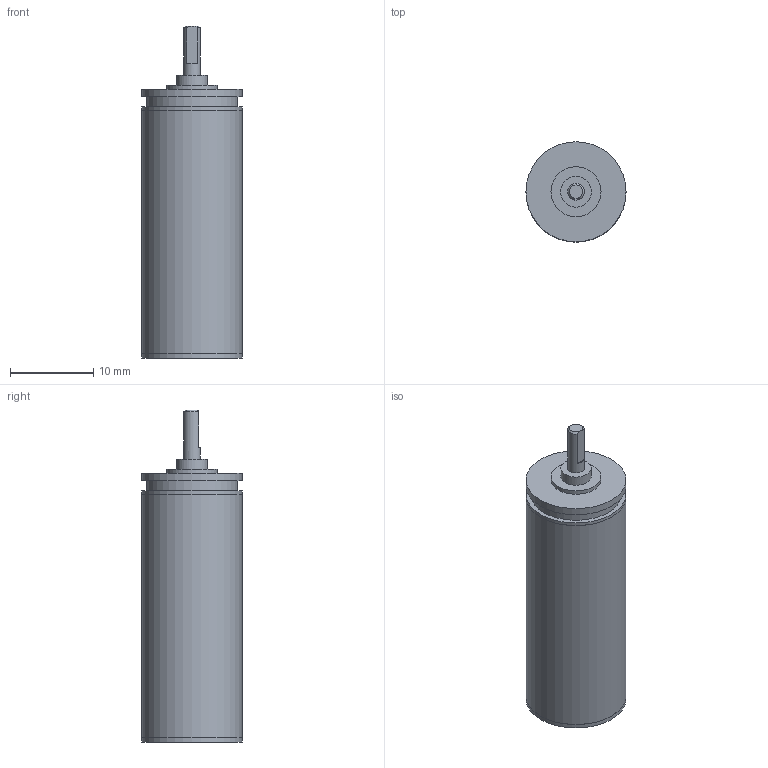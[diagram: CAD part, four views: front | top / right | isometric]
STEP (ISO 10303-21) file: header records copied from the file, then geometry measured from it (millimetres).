
FILE_DESCRIPTION(/* description */ (''),/* implementation_level */ '2;1');
FILE_NAME(/* name */ '12-3_11.stp',/* time_stamp */ '2016-08-24T10:14:36+02:00',/* author */ ('DR. FRITZ FAULHABER GmbH & Co. KG'),/* organization */ ('DR. FRITZ FAULHABER GmbH & Co. KG'),/* preprocessor_version */ 'ST-DEVELOPER v16',/* originating_system */ 'SIEMENS PLM Software NX 10.0',/* authorisation */ '');
FILE_SCHEMA (('AUTOMOTIVE_DESIGN { 1 0 10303 214 3 1 1 1 }'));
Length unit declared in the file: millimetre
Products named in the file (1): H00000574_A
Bounding box: 12 x 12 x 39.8 mm (x, y, z)
Volume: 3591.1 mm3; surface area: 1602.3 mm2
Topology: 1 solids, 1 shells, 32 faces, 52 edges, 34 vertices
Faces by surface type: plane 16, cylinder 14, cone 2
Full cylindrical faces by diameter (mm): 2 x1, 2.48 x1, 2.6 x1, 3.7 x1, 5 x1, 6 x2, 10.88 x1, 11.99 x2, 12 x4
Entity records: 692 total; most frequent: DIRECTION 129, CARTESIAN_POINT 115, ORIENTED_EDGE 70, AXIS2_PLACEMENT_3D 63, EDGE_LOOP 59, FACE_BOUND 54, EDGE_CURVE 35, ADVANCED_FACE 32
